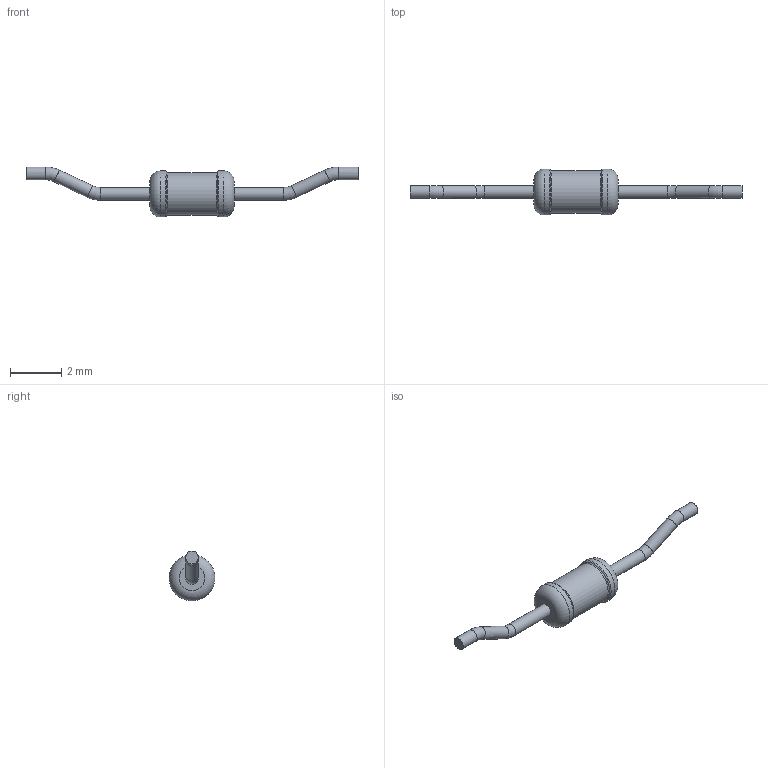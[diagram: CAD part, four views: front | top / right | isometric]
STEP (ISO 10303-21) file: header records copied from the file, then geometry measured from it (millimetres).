
FILE_DESCRIPTION(('STEP AP203'), '1');
FILE_NAME('ﾑ2-29ﾂ-0,062ﾀﾈ(3)', '', ('UNSPECIFIED'), ('UNSPECIFIED'), 'ASCON STEP Converter 1.6', 'ASCON Math Kernel', '');
FILE_SCHEMA(('CONFIG_CONTROL_DESIGN'));
Length unit declared in the file: millimetre
Bounding box: 13 x 1.8 x 1.95 mm (x, y, z)
Volume: 9.2 mm3; surface area: 36.9 mm2
Topology: 1 solids, 1 shells, 23 faces, 41 edges, 22 vertices
Faces by surface type: torus 10, cylinder 9, plane 4
Full cylindrical faces by diameter (mm): 0.5 x6, 1.656 x1, 1.8 x2
Entity records: 682 total; most frequent: DIRECTION 92, CARTESIAN_POINT 68, AXIS2_PLACEMENT_3D 46, EDGE_LOOP 44, ORIENTED_EDGE 44, FACE_OUTER_BOUND 38, COLOUR_RGB 24, FILL_AREA_STYLE_COLOUR 24
